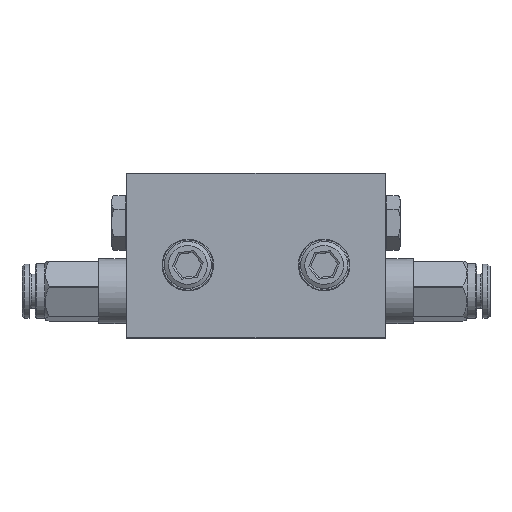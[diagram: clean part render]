
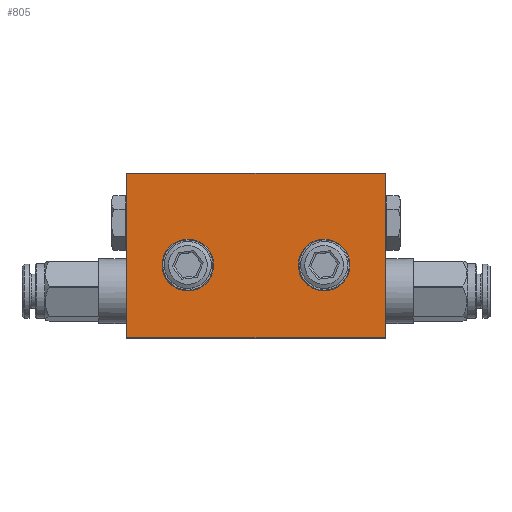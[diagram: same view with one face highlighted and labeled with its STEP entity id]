
A CAD part, top view. The second image highlights one B-rep face of the part: STEP entity #805.
In plain terms, the highlighted planar face has unit normal (0, 0, 1) as drawn and (0, 0, -1) by its records, which use the part's own axes.
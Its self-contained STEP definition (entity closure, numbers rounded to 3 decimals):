
#805 = ADVANCED_FACE ( 'NONE', ( #35113, #16544, #2147 ), #16774, .F. ) ;
#1319 = VERTEX_POINT ( 'NONE', #15941 ) ;
#2147 = FACE_OUTER_BOUND ( 'NONE', #20470, .T. ) ;
#2159 = DIRECTION ( 'NONE',  ( 1., 0., 0. ) ) ;
#2666 = AXIS2_PLACEMENT_3D ( 'NONE', #20641, #39430, #10255 ) ;
#3016 = VECTOR ( 'NONE', #36960, 1000. ) ;
#3768 = DIRECTION ( 'NONE',  ( 1., 0., 0. ) ) ;
#5780 = DIRECTION ( 'NONE',  ( -1., 0., 0. ) ) ;
#6040 = CARTESIAN_POINT ( 'NONE',  ( -11.4, -15.5, -4.85 ) ) ;
#6192 = LINE ( 'NONE', #38954, #29732 ) ;
#6695 = CIRCLE ( 'NONE', #34443, 3.1 ) ;
#7550 = CARTESIAN_POINT ( 'NONE',  ( 27.5, 0., -4.85 ) ) ;
#8370 = ORIENTED_EDGE ( 'NONE', *, *, #46191, .F. ) ;
#9580 = EDGE_CURVE ( 'NONE', #1319, #1319, #6695, .T. ) ;
#10255 = DIRECTION ( 'NONE',  ( 1., 0., 0. ) ) ;
#11333 = EDGE_CURVE ( 'NONE', #23129, #30725, #6192, .T. ) ;
#11417 = CARTESIAN_POINT ( 'NONE',  ( -14.5, -15.5, -4.85 ) ) ;
#13166 = EDGE_CURVE ( 'NONE', #24644, #24644, #28139, .T. ) ;
#14134 = ORIENTED_EDGE ( 'NONE', *, *, #11333, .F. ) ;
#14321 = EDGE_CURVE ( 'NONE', #31625, #28623, #35979, .T. ) ;
#14733 = VECTOR ( 'NONE', #39330, 1000. ) ;
#15941 = CARTESIAN_POINT ( 'NONE',  ( 11.4, -15.5, -4.85 ) ) ;
#16544 = FACE_BOUND ( 'NONE', #32435, .T. ) ;
#16774 = PLANE ( 'NONE',  #2666 ) ;
#17129 = CARTESIAN_POINT ( 'NONE',  ( -27.5, 0., -4.85 ) ) ;
#17948 = EDGE_LOOP ( 'NONE', ( #46947 ) ) ;
#20470 = EDGE_LOOP ( 'NONE', ( #14134, #8370, #41141, #33303 ) ) ;
#20611 = ORIENTED_EDGE ( 'NONE', *, *, #9580, .F. ) ;
#20641 = CARTESIAN_POINT ( 'NONE',  ( 0., 0., -4.85 ) ) ;
#23129 = VERTEX_POINT ( 'NONE', #32694 ) ;
#24139 = CARTESIAN_POINT ( 'NONE',  ( 14.5, -15.5, -4.85 ) ) ;
#24644 = VERTEX_POINT ( 'NONE', #6040 ) ;
#28139 = CIRCLE ( 'NONE', #40484, 3.1 ) ;
#28623 = VERTEX_POINT ( 'NONE', #46507 ) ;
#29007 = LINE ( 'NONE', #7550, #3016 ) ;
#29732 = VECTOR ( 'NONE', #2159, 1000. ) ;
#30725 = VERTEX_POINT ( 'NONE', #31751 ) ;
#31625 = VERTEX_POINT ( 'NONE', #39150 ) ;
#31751 = CARTESIAN_POINT ( 'NONE',  ( 27.5, -35., -4.85 ) ) ;
#32435 = EDGE_LOOP ( 'NONE', ( #20611 ) ) ;
#32694 = CARTESIAN_POINT ( 'NONE',  ( -27.5, -35., -4.85 ) ) ;
#33303 = ORIENTED_EDGE ( 'NONE', *, *, #36333, .F. ) ;
#34443 = AXIS2_PLACEMENT_3D ( 'NONE', #24139, #38770, #5780 ) ;
#35113 = FACE_BOUND ( 'NONE', #17948, .T. ) ;
#35498 = CARTESIAN_POINT ( 'NONE',  ( 0., 0., -4.85 ) ) ;
#35709 = DIRECTION ( 'NONE',  ( 0., -1., 0. ) ) ;
#35979 = LINE ( 'NONE', #35498, #14733 ) ;
#36333 = EDGE_CURVE ( 'NONE', #30725, #31625, #29007, .T. ) ;
#36672 = LINE ( 'NONE', #17129, #44487 ) ;
#36960 = DIRECTION ( 'NONE',  ( 0., 1., 0. ) ) ;
#38770 = DIRECTION ( 'NONE',  ( 0., 0., -1. ) ) ;
#38954 = CARTESIAN_POINT ( 'NONE',  ( 0., -35., -4.85 ) ) ;
#39150 = CARTESIAN_POINT ( 'NONE',  ( 27.5, 0., -4.85 ) ) ;
#39330 = DIRECTION ( 'NONE',  ( -1., 0., 0. ) ) ;
#39430 = DIRECTION ( 'NONE',  ( 0., 0., 1. ) ) ;
#40484 = AXIS2_PLACEMENT_3D ( 'NONE', #11417, #43741, #3768 ) ;
#41141 = ORIENTED_EDGE ( 'NONE', *, *, #14321, .F. ) ;
#43741 = DIRECTION ( 'NONE',  ( 0., 0., -1. ) ) ;
#44487 = VECTOR ( 'NONE', #35709, 1000. ) ;
#46191 = EDGE_CURVE ( 'NONE', #28623, #23129, #36672, .T. ) ;
#46507 = CARTESIAN_POINT ( 'NONE',  ( -27.5, 0., -4.85 ) ) ;
#46947 = ORIENTED_EDGE ( 'NONE', *, *, #13166, .F. ) ;
